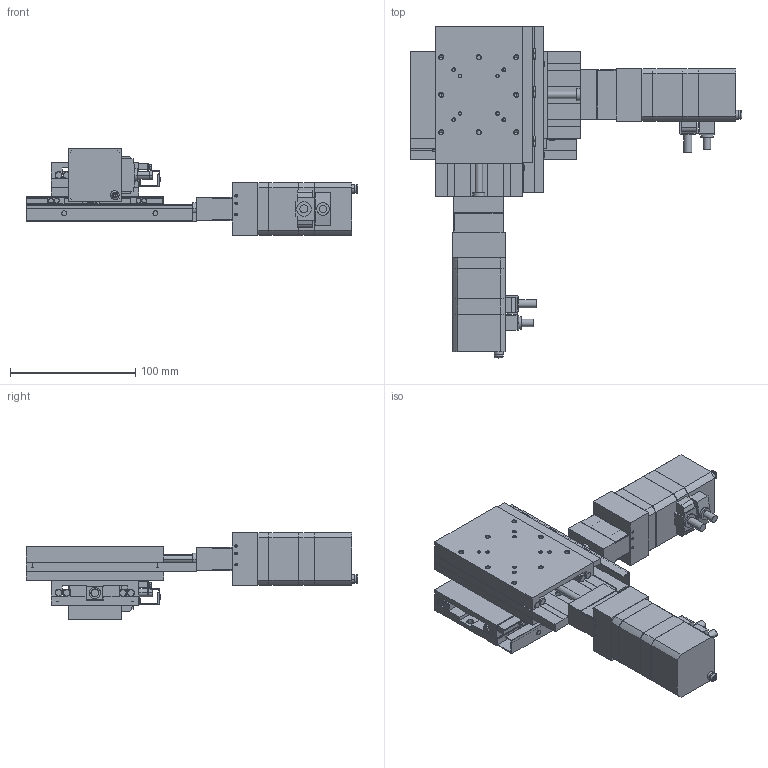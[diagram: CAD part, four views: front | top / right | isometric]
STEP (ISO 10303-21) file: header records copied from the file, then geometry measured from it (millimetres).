
FILE_DESCRIPTION(('STEP AP203'),'1');
FILE_NAME('C:/3D-Trans/3D_PMG750T-R□-MA+240122.step','2024-03-14T08:09:46',(' '),(' '),'Spatial InterOp 3D',' ',' ');
FILE_SCHEMA(('CONFIG_CONTROL_DESIGN'));
Length unit declared in the file: millimetre
Products named in the file (13): 1; 2; 3; 4; 5; 6; 7; 8; 9; 10; 11; 12; 13
Bounding box: 265.5 x 265.5 x 69 mm (x, y, z)
Volume: 679848.9 mm3; surface area: 213372.4 mm2
Topology: 13 solids, 13 shells, 1290 faces, 3244 edges, 2032 vertices
Faces by surface type: plane 638, cylinder 428, cone 216, torus 8
Entity records: 38988 total; most frequent: DIRECTION 6930, CARTESIAN_POINT 6651, ORIENTED_EDGE 6376, EDGE_CURVE 3188, AXIS2_PLACEMENT_3D 2451, VERTEX_POINT 2032, LINE 2028, VECTOR 2028
